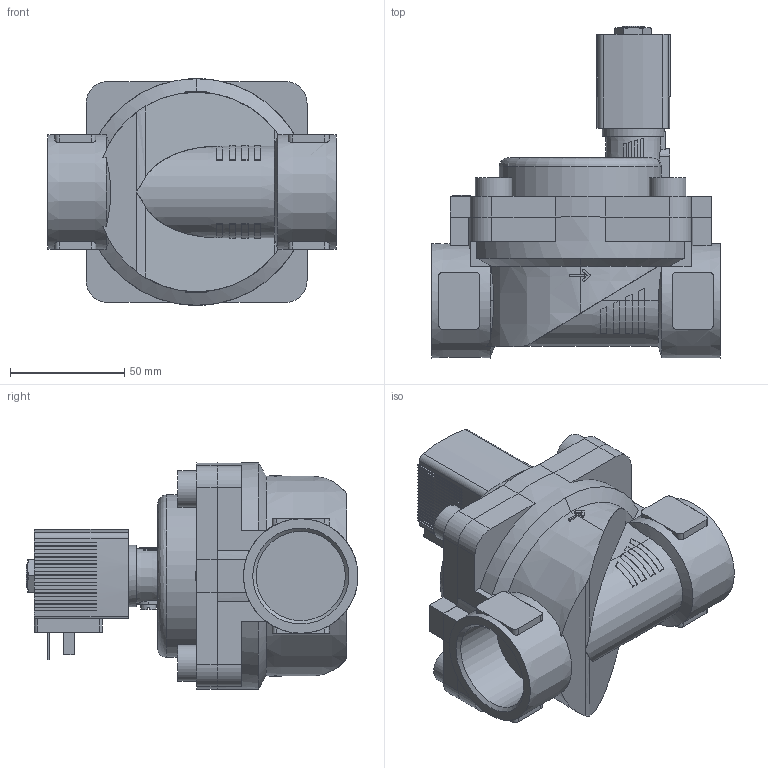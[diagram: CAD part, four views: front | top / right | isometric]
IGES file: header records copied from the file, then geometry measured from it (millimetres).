
Start section: Data from Parasolid IGES Translator 26.0.171, Copyright(c) 2006 Siemens PLM Software. All Rights Reserved.
Global section: file name: 6281-384196-2_2-Way_Solenoid_Valve__Servo-assisted__General_Purpose.igs; native system: By Siemens PLM Incorporated; preprocessor: XPlus GENERIC/IGES 26.0.171; author: Noname; organization: Noname; date: 20240621.172311; units: millimetre
Bounding box: 126 x 145 x 99 mm (x, y, z)
Surface area: 86916.4 mm2 (no closed solid volume)
Topology: 0 solids, 0 shells, 570 faces, 3194 edges, 3174 vertices
Faces by surface type: extrusion 443, revolution 127
